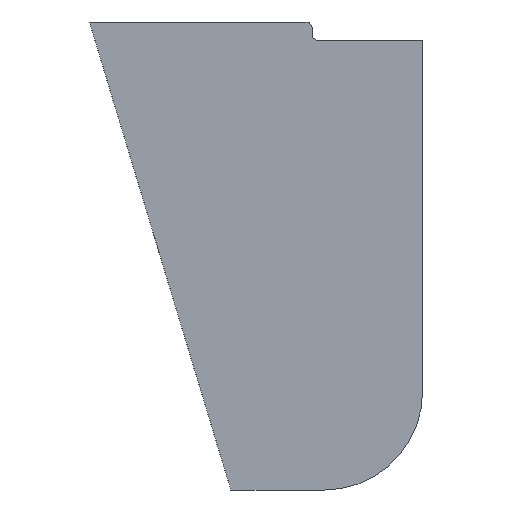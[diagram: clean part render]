
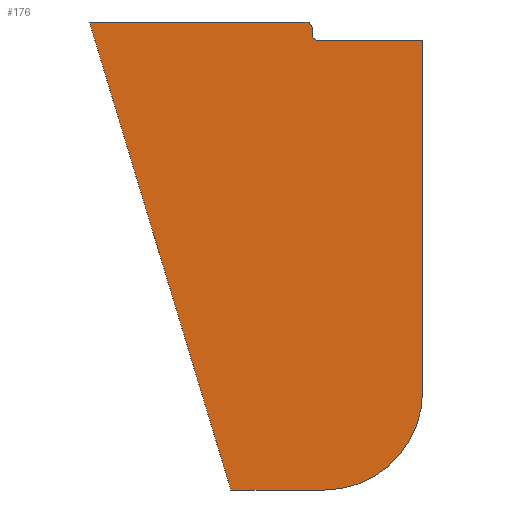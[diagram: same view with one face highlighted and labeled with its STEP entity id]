
A CAD part, left-side view. The second image highlights one B-rep face of the part: STEP entity #176.
In plain terms, the highlighted planar face has unit normal (-1, 0, 0).
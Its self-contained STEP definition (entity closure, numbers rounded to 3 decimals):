
#1=CARTESIAN_POINT('',(0.,308.584,653.742));
#2=DIRECTION('',(-1.,0.,0.));
#3=DIRECTION('',(0.,0.,-1.));
#4=AXIS2_PLACEMENT_3D('',#1,#2,#3);
#6=DIRECTION('',(0.,1.,0.));
#7=VECTOR('',#6,76.188);
#8=CARTESIAN_POINT('',(0.,308.584,573.742));
#9=LINE('',#8,#7);
#10=DIRECTION('',(0.,0.289,0.957));
#11=VECTOR('',#10,398.29);
#12=CARTESIAN_POINT('',(0.,384.772,573.742));
#13=LINE('',#12,#11);
#14=DIRECTION('',(0.,-1.,0.));
#15=VECTOR('',#14,176.416);
#16=CARTESIAN_POINT('',(0.,500.,955.));
#17=LINE('',#16,#15);
#18=CARTESIAN_POINT('',(0.,323.584,950.));
#19=DIRECTION('',(1.,0.,0.));
#20=DIRECTION('',(0.,0.,1.));
#21=AXIS2_PLACEMENT_3D('',#18,#19,#20);
#23=DIRECTION('',(0.,0.,-1.));
#24=VECTOR('',#23,5.);
#25=CARTESIAN_POINT('',(0.,318.584,950.));
#26=LINE('',#25,#24);
#27=CARTESIAN_POINT('',(0.,313.584,945.));
#28=DIRECTION('',(-1.,0.,0.));
#29=DIRECTION('',(0.,1.,0.));
#30=AXIS2_PLACEMENT_3D('',#27,#28,#29);
#32=DIRECTION('',(0.,-1.,0.));
#33=VECTOR('',#32,85.);
#34=CARTESIAN_POINT('',(0.,313.584,940.));
#35=LINE('',#34,#33);
#36=DIRECTION('',(0.,0.,-1.));
#37=VECTOR('',#36,286.258);
#38=CARTESIAN_POINT('',(0.,228.584,940.));
#39=LINE('',#38,#37);
#115=CARTESIAN_POINT('',(0.,500.,955.));
#116=CARTESIAN_POINT('',(0.,323.584,955.));
#117=VERTEX_POINT('',#115);
#118=VERTEX_POINT('',#116);
#119=CARTESIAN_POINT('',(0.,318.584,950.));
#120=VERTEX_POINT('',#119);
#121=CARTESIAN_POINT('',(0.,318.584,945.));
#122=VERTEX_POINT('',#121);
#123=CARTESIAN_POINT('',(0.,313.584,940.));
#124=VERTEX_POINT('',#123);
#125=CARTESIAN_POINT('',(0.,228.584,940.));
#126=VERTEX_POINT('',#125);
#139=CARTESIAN_POINT('',(0.,384.772,573.742));
#141=VERTEX_POINT('',#139);
#147=CARTESIAN_POINT('',(0.,308.584,573.742));
#148=VERTEX_POINT('',#147);
#149=CARTESIAN_POINT('',(0.,228.584,653.742));
#150=VERTEX_POINT('',#149);
#151=CARTESIAN_POINT('',(0.,0.,0.));
#152=DIRECTION('',(1.,0.,0.));
#153=DIRECTION('',(0.,0.,-1.));
#154=AXIS2_PLACEMENT_3D('',#151,#152,#153);
#155=PLANE('',#154);
#157=ORIENTED_EDGE('',*,*,#156,.F.);
#159=ORIENTED_EDGE('',*,*,#158,.T.);
#161=ORIENTED_EDGE('',*,*,#160,.T.);
#163=ORIENTED_EDGE('',*,*,#162,.T.);
#165=ORIENTED_EDGE('',*,*,#164,.T.);
#167=ORIENTED_EDGE('',*,*,#166,.T.);
#169=ORIENTED_EDGE('',*,*,#168,.T.);
#171=ORIENTED_EDGE('',*,*,#170,.T.);
#173=ORIENTED_EDGE('',*,*,#172,.T.);
#174=EDGE_LOOP('',(#157,#159,#161,#163,#165,#167,#169,#171,#173));
#175=FACE_OUTER_BOUND('',#174,.F.);
#176=ADVANCED_FACE('',(#175),#155,.F.);
#5=CIRCLE('',#4,80.);
#22=CIRCLE('',#21,5.);
#31=CIRCLE('',#30,5.);
#156=EDGE_CURVE('',#148,#150,#5,.T.);
#158=EDGE_CURVE('',#148,#141,#9,.T.);
#160=EDGE_CURVE('',#141,#117,#13,.T.);
#162=EDGE_CURVE('',#117,#118,#17,.T.);
#164=EDGE_CURVE('',#118,#120,#22,.T.);
#166=EDGE_CURVE('',#120,#122,#26,.T.);
#168=EDGE_CURVE('',#122,#124,#31,.T.);
#170=EDGE_CURVE('',#124,#126,#35,.T.);
#172=EDGE_CURVE('',#126,#150,#39,.T.);
